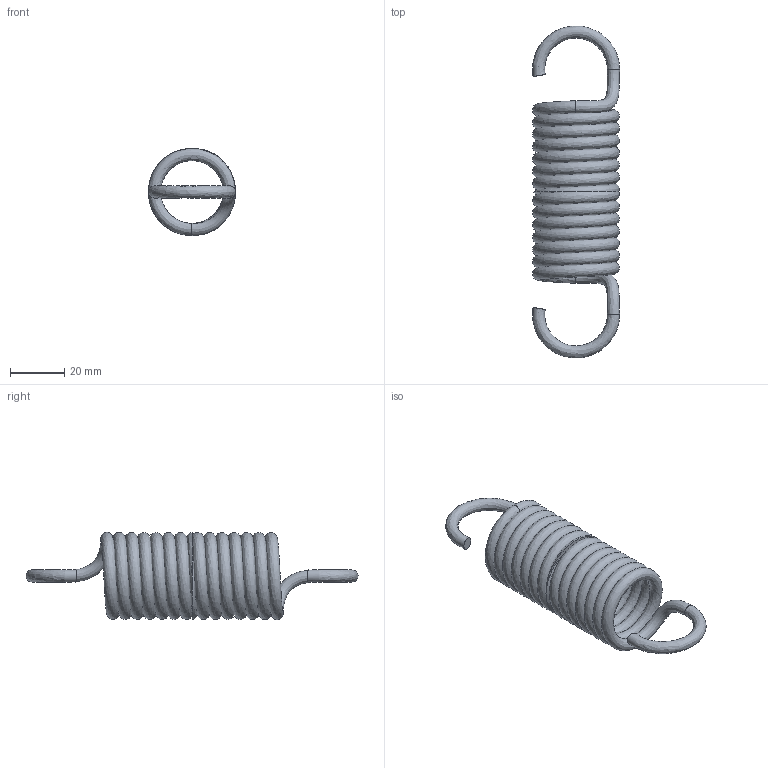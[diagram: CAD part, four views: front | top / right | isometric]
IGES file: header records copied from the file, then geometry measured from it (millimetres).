
Global section: file name: T22480; native system: Autodesk Inventor 2026; preprocessor: unknown; author: J. Iwanek; date: 20261005.102714; units: millimetre
Bounding box: 31.99 x 121.89 x 32 mm (x, y, z)
Volume: 21514.9 mm3; surface area: 19199.3 mm2
Topology: 1 solids, 1 shells, 10 faces, 36 edges, 24 vertices
Faces by surface type: bspline 10
